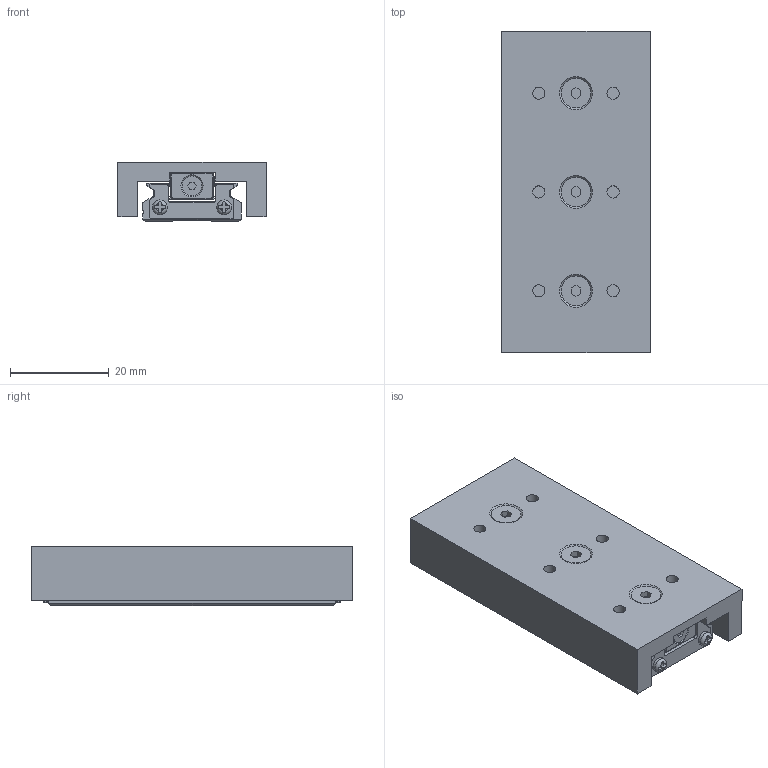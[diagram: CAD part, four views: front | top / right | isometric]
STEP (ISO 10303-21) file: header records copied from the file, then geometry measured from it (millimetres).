
FILE_DESCRIPTION(/* description */ ('MLO 30.065.058-ALU-SE'),/* implementation_level */ '2;1');
FILE_NAME(/* name */ 'ERO-078065.step',/* time_stamp */ '2025-07-02T13:13:45+02:00',/* author */ ('MM'),/* organization */ (''),/* preprocessor_version */ 'ST-DEVELOPER v19.2',/* originating_system */ 'Autodesk Inventor 2023',/* authorisation */ '');
FILE_SCHEMA (('AUTOMOTIVE_DESIGN { 1 0 10303 214 3 1 1 }'));
Length unit declared in the file: millimetre
Products named in the file (8): ERO-078065; ERO-041182; ERO-041180; ERO-041181; ERO-078066; ISO 4032 - SW5,5 - M3 - A2; ISO 10642 - M3 x  6 - A2/70; ERO-080425
Assembly tree (11 placements, depth 3):
  ERO-078065
    ERO-041182
      ERO-041180
      ERO-041181
    ERO-078066
    ISO 4032 - SW5,5 - M3 - A2  x3
    ISO 10642 - M3 x  6 - A2/70  x3
    ERO-080425
Bounding box: 30.01 x 65 x 12 mm (x, y, z)
Volume: 18310.2 mm3; surface area: 14430.2 mm2
Topology: 10 solids, 10 shells, 787 faces, 2065 edges, 1351 vertices
Faces by surface type: plane 567, cylinder 116, bspline 45, cone 44, torus 15
Full cylindrical faces by diameter (mm): 2.459 x9, 2.5 x6, 3 x13, 3.5 x6, 4 x2, 6 x9
Entity records: 23782 total; most frequent: CARTESIAN_POINT 4663, ORIENTED_EDGE 3870, DIRECTION 3527, EDGE_CURVE 1935, LINE 1489, VECTOR 1489, VERTEX_POINT 1271, AXIS2_PLACEMENT_3D 1019
